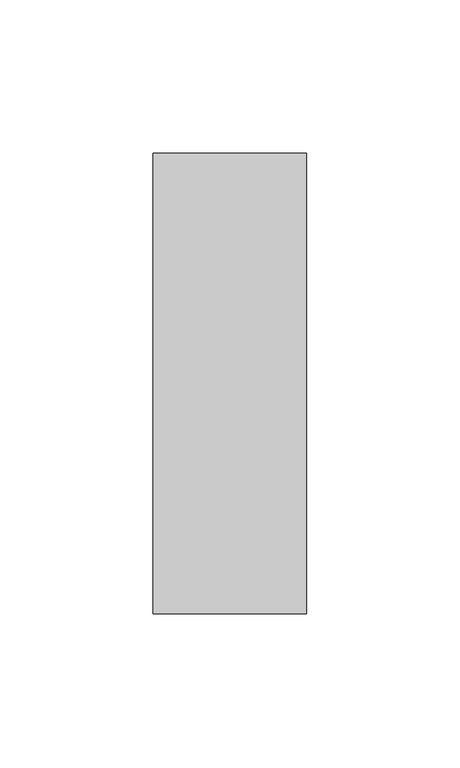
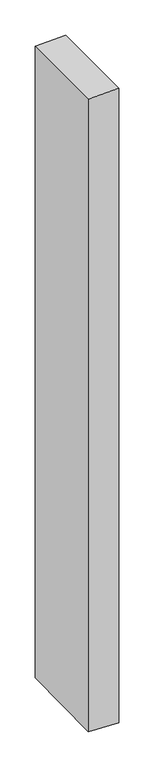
"""IFC4 building model written with IfcOpenShell, lengths in millimetres: member geometry, Прямоугольный импост : 50 x 150 мм."""

from ifc_helpers import new_model, si_unit, origin, place, context, project, spatial, faceted_brep, source, transform, mapped, element, save


def member_e20c0258(model_context):
    return source(origin(), model_context, "Body", "Brep", [
        faceted_brep([(-25.0, 75.0, -0.4395255), (25.0, 75.0, 1.0506099), (25.0, 75.0, -1094.6767742), (-25.0, 75.0, -1093.2868117), (-25.0, -75.0, -1.0506099), (-25.0, -75.0, -1096.437893), (25.0, -75.0, 0.4395255), (25.0, -75.0, -1097.8278555)], [[[0, 1, 2, 3]], [[4, 0, 3, 5]], [[6, 4, 5, 7]], [[1, 6, 7, 2]], [[1, 0, 4, 6]], [[2, 7, 5, 3]]]),
    ])


if __name__ == "__main__":
    model = new_model("IFC4")
    model_context = context("Model", 3, world=origin())
    ifc_project = project(units=[si_unit("LENGTHUNIT", "METRE", prefix="MILLI")], contexts=[model_context])
    site = spatial("IfcSite", under=ifc_project)
    building = spatial("IfcBuilding", under=site)
    placement = place(None, origin())
    member_shape = member_e20c0258(model_context)
    element("IfcMember", 1, ObjectType="Прямоугольный импост : 50 x 150 мм", at=placement, inside=building, context=model_context, shape_type="MappedRepresentation", body=[
        mapped(member_shape, transform((0.0, 0.0, 0.0), x_axis=(1.0, 0.0, 0.0), y_axis=(0.0, 1.0, 0.0), z_axis=(0.0, 0.0, 1.0))),
    ])
    save(model, "model.ifc")
